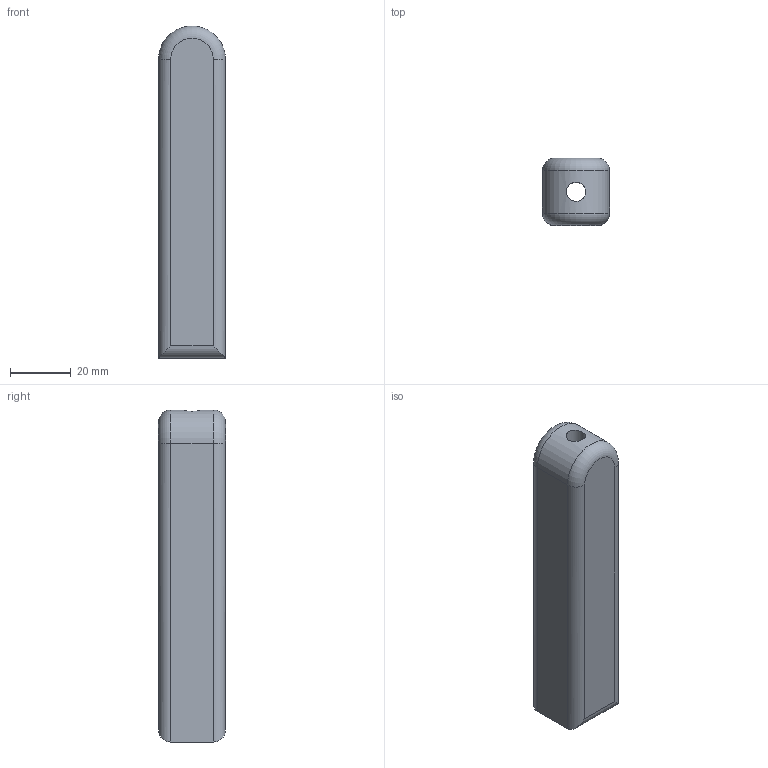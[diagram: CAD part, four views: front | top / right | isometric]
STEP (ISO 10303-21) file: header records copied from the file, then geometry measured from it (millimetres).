
FILE_DESCRIPTION(/* description */ (''),/* implementation_level */ '2;1');
FILE_NAME(/* name */ 'C:/Users/Owner/Desktop/K-CAD Songbird PM4 Centerfire/STEP/Barrels/Barrel Type 1/Barrel Type 1 0.25 inch ID.step',/* time_stamp */ '2020-12-05T21:56:58-05:00',/* author */ (''),/* organization */ (''),/* preprocessor_version */ 'ST-DEVELOPER v18.1',/* originating_system */ 'Autodesk Translation Framework v9.3.0.1241',/* authorisation */ '');
FILE_SCHEMA (('AUTOMOTIVE_DESIGN { 1 0 10303 214 3 1 1 }'));
Length unit declared in the file: inch
Products named in the file (1): Barrel Type 1 0.25 inch ID
Bounding box: 22 x 22 x 109 mm (x, y, z)
Volume: 46474.8 mm3; surface area: 11471.2 mm2
Topology: 1 solids, 1 shells, 15 faces, 31 edges, 18 vertices
Faces by surface type: cylinder 8, plane 5, torus 2
Full cylindrical faces by diameter (mm): 6.35 x1
Entity records: 471 total; most frequent: CARTESIAN_POINT 98, DIRECTION 75, ORIENTED_EDGE 62, EDGE_CURVE 31, AXIS2_PLACEMENT_3D 29, VERTEX_POINT 18, EDGE_LOOP 17, LINE 17
